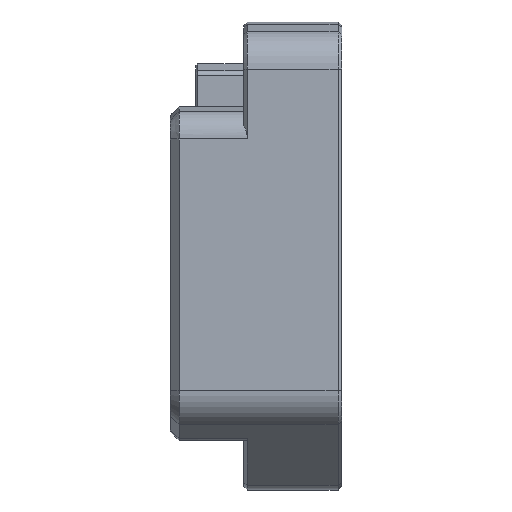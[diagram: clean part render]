
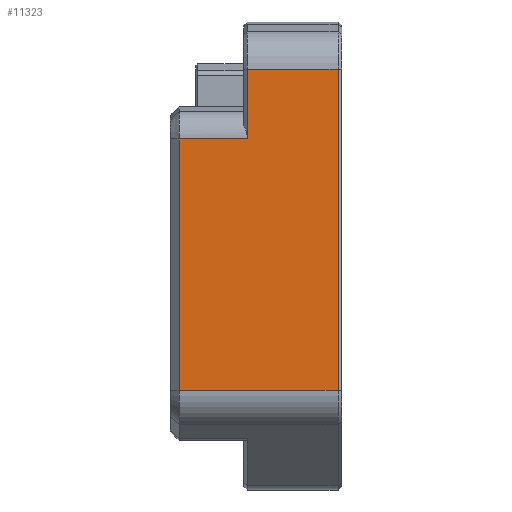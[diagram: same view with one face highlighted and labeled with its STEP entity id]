
A CAD part, left-side view. The second image highlights one B-rep face of the part: STEP entity #11323.
In plain terms, the highlighted planar face has unit normal (-1, 0, 0).
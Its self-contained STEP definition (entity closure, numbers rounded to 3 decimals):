
#90 = VECTOR ( 'NONE', #4665, 1000. ) ;
#634 = VECTOR ( 'NONE', #12566, 1000. ) ;
#666 = CARTESIAN_POINT ( 'NONE',  ( -9.4, 9.8, -21.1 ) ) ;
#1162 = EDGE_CURVE ( 'NONE', #14851, #4932, #12440, .T. ) ;
#1480 = VECTOR ( 'NONE', #4325, 1000. ) ;
#1704 = FACE_OUTER_BOUND ( 'NONE', #7889, .T. ) ;
#2119 = CARTESIAN_POINT ( 'NONE',  ( -9.4, 9.8, -2.7 ) ) ;
#2354 = CARTESIAN_POINT ( 'NONE',  ( -9.4, 9.3, -6.7 ) ) ;
#2554 = CARTESIAN_POINT ( 'NONE',  ( -9.4, 0.2, -2.7 ) ) ;
#2803 = ORIENTED_EDGE ( 'NONE', *, *, #1162, .T. ) ;
#3158 = ORIENTED_EDGE ( 'NONE', *, *, #21383, .T. ) ;
#4325 = DIRECTION ( 'NONE',  ( 0., 0., 1. ) ) ;
#4362 = VERTEX_POINT ( 'NONE', #8857 ) ;
#4577 = LINE ( 'NONE', #4807, #90 ) ;
#4665 = DIRECTION ( 'NONE',  ( 0., -1., 0. ) ) ;
#4807 = CARTESIAN_POINT ( 'NONE',  ( -9.4, 9.8, -21.1 ) ) ;
#4932 = VERTEX_POINT ( 'NONE', #2354 ) ;
#4957 = CARTESIAN_POINT ( 'NONE',  ( -9.4, 5.4, -6.7 ) ) ;
#5050 = ORIENTED_EDGE ( 'NONE', *, *, #18392, .T. ) ;
#5147 = DIRECTION ( 'NONE',  ( 0., 0., -1. ) ) ;
#5444 = CARTESIAN_POINT ( 'NONE',  ( -9.4, 0.2, -21.1 ) ) ;
#5900 = DIRECTION ( 'NONE',  ( 0., 1., 0. ) ) ;
#6709 = CARTESIAN_POINT ( 'NONE',  ( -9.4, 5.4, -6.7 ) ) ;
#7372 = CARTESIAN_POINT ( 'NONE',  ( -9.4, 9.3, -21.1 ) ) ;
#7725 = ORIENTED_EDGE ( 'NONE', *, *, #9114, .T. ) ;
#7889 = EDGE_LOOP ( 'NONE', ( #7725, #21245, #11848, #3158, #2803, #5050 ) ) ;
#8057 = VECTOR ( 'NONE', #8680, 1000. ) ;
#8680 = DIRECTION ( 'NONE',  ( 0., -1., 0. ) ) ;
#8857 = CARTESIAN_POINT ( 'NONE',  ( -9.4, 0.2, -2.7 ) ) ;
#9114 = EDGE_CURVE ( 'NONE', #12458, #13912, #4577, .T. ) ;
#9125 = DIRECTION ( 'NONE',  ( 0., 0., -1. ) ) ;
#9376 = LINE ( 'NONE', #2119, #8057 ) ;
#10385 = LINE ( 'NONE', #2554, #1480 ) ;
#10877 = CARTESIAN_POINT ( 'NONE',  ( -9.4, 5.6, -6.7 ) ) ;
#11323 = ADVANCED_FACE ( 'NONE', ( #1704 ), #14115, .F. ) ;
#11848 = ORIENTED_EDGE ( 'NONE', *, *, #21439, .F. ) ;
#12144 = AXIS2_PLACEMENT_3D ( 'NONE', #666, #19201, #9125 ) ;
#12440 = LINE ( 'NONE', #10877, #12690 ) ;
#12458 = VERTEX_POINT ( 'NONE', #15086 ) ;
#12566 = DIRECTION ( 'NONE',  ( 0., 0., -1. ) ) ;
#12690 = VECTOR ( 'NONE', #5900, 1000. ) ;
#13836 = VECTOR ( 'NONE', #5147, 1000. ) ;
#13912 = VERTEX_POINT ( 'NONE', #5444 ) ;
#13938 = CARTESIAN_POINT ( 'NONE',  ( -9.4, 5.4, -2.7 ) ) ;
#14115 = PLANE ( 'NONE',  #12144 ) ;
#14409 = EDGE_CURVE ( 'NONE', #13912, #4362, #10385, .T. ) ;
#14851 = VERTEX_POINT ( 'NONE', #4957 ) ;
#15086 = CARTESIAN_POINT ( 'NONE',  ( -9.4, 9.3, -21.1 ) ) ;
#15352 = LINE ( 'NONE', #7372, #634 ) ;
#15698 = LINE ( 'NONE', #6709, #13836 ) ;
#18392 = EDGE_CURVE ( 'NONE', #4932, #12458, #15352, .T. ) ;
#18794 = VERTEX_POINT ( 'NONE', #13938 ) ;
#19201 = DIRECTION ( 'NONE',  ( 1., 0., 0. ) ) ;
#21245 = ORIENTED_EDGE ( 'NONE', *, *, #14409, .T. ) ;
#21383 = EDGE_CURVE ( 'NONE', #18794, #14851, #15698, .T. ) ;
#21439 = EDGE_CURVE ( 'NONE', #18794, #4362, #9376, .T. ) ;
